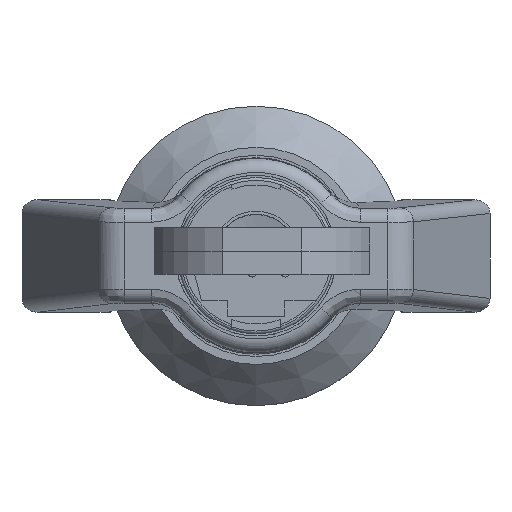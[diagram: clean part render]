
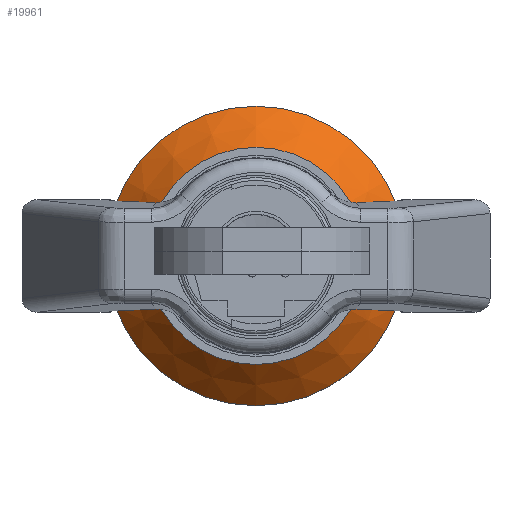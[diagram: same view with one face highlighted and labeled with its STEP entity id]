
A CAD part, top view. The second image highlights one B-rep face of the part: STEP entity #19961.
In plain terms, the highlighted conical face has half-angle 45 degrees and reference radius 13.8 mm.
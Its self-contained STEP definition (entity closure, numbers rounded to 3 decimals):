
#19930=CARTESIAN_POINT('',(0.0,-1.6,-16.0));
#19931=VERTEX_POINT('',#19930);
#19932=CARTESIAN_POINT('',(0.0,-1.6,0.0));
#19933=DIRECTION('',(0.0,1.0,0.0));
#19934=DIRECTION('',(0.0,0.0,1.0));
#19935=AXIS2_PLACEMENT_3D('',#19932,#19933,#19934);
#19936=CIRCLE('',#19935,16.0);
#19937=EDGE_CURVE('',#19931,#19931,#19936,.T.);
#19942=CARTESIAN_POINT('',(0.0,-3.8,0.0));
#19943=DIRECTION('',(0.0,1.0,0.0));
#19944=DIRECTION('',(0.0,0.0,-1.0));
#19945=AXIS2_PLACEMENT_3D('',#19942,#19943,#19944);
#19946=CONICAL_SURFACE('',#19945,13.8,45.);
#19947=CARTESIAN_POINT('',(0.0,-6.,-11.6));
#19948=VERTEX_POINT('',#19947);
#19949=CARTESIAN_POINT('',(0.0,-6.,0.0));
#19950=DIRECTION('',(0.0,1.0,0.0));
#19951=DIRECTION('',(0.0,0.0,1.0));
#19952=AXIS2_PLACEMENT_3D('',#19949,#19950,#19951);
#19953=CIRCLE('',#19952,11.6);
#19954=EDGE_CURVE('',#19948,#19948,#19953,.T.);
#19955=ORIENTED_EDGE('',*,*,#19954,.T.);
#19956=EDGE_LOOP('',(#19955));
#19957=FACE_OUTER_BOUND('',#19956,.T.);
#19958=ORIENTED_EDGE('',*,*,#19937,.F.);
#19959=EDGE_LOOP('',(#19958));
#19960=FACE_BOUND('',#19959,.T.);
#19961=ADVANCED_FACE('',(#19957,#19960),#19946,.T.);
